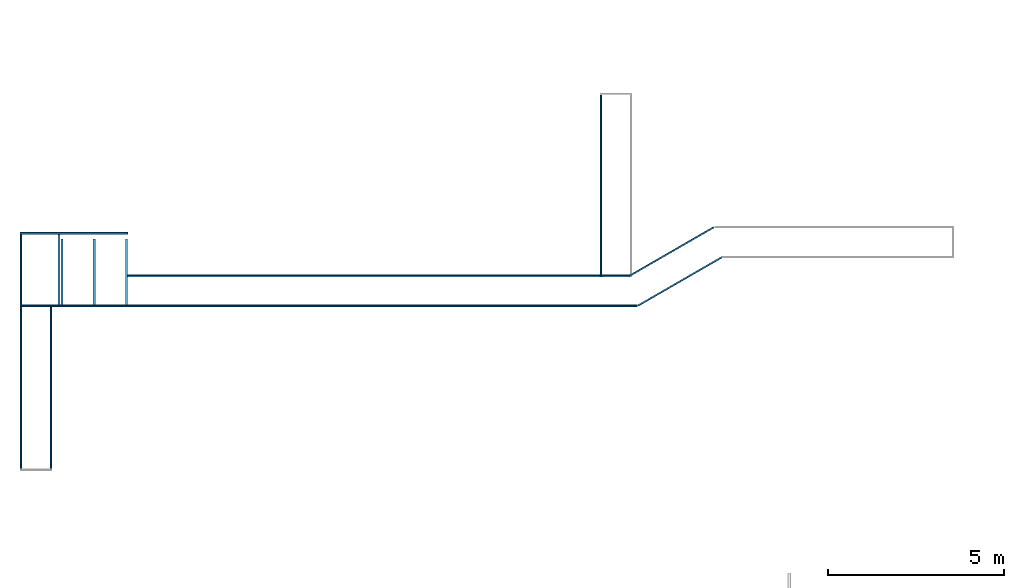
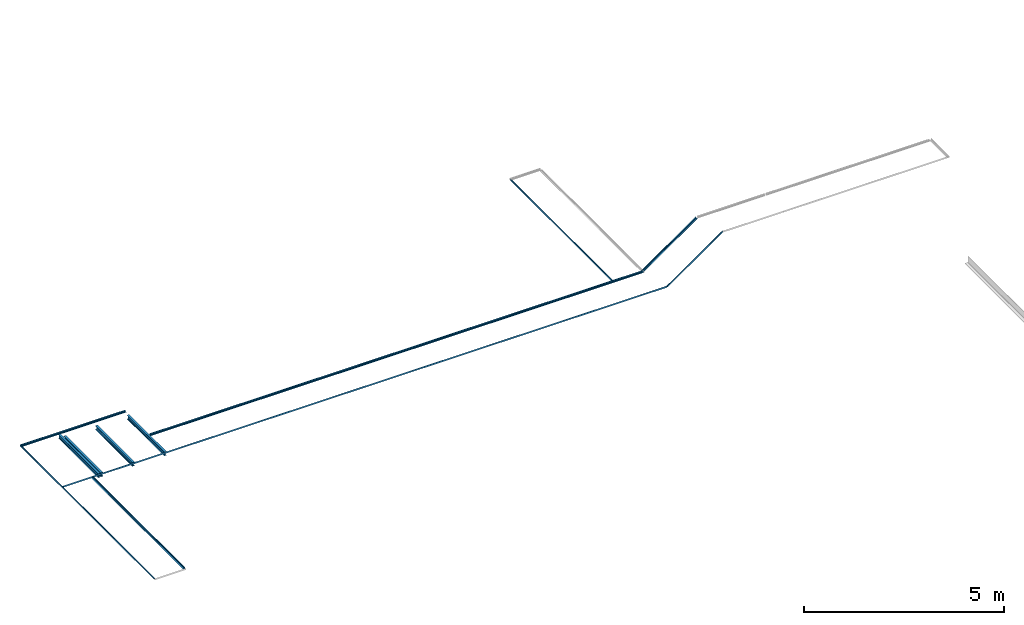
# One storey, part 2 of 3: 12 beams, 1 element without a shape of its own.
"""IFC4X3_ADD2 building model written with IfcOpenShell, lengths in millimetres."""

from ifc_helpers import new_model, si_unit, point, direction, frame, frame_2d, origin_with_axes, place, context, subcontext, project, spatial, polyline, circle_curve, trimmed, segment, composite_curve, i_section, l_section, outline, extrude, boolean, material, type_object, element, aggregate, save


model = new_model("IFC4X3_ADD2")

# Units and contexts
model_context = context("Model", 3, precision=1e-05, world=origin_with_axes(), true_north=direction((0.0, 1.0)))
body_context = subcontext(model_context, "Body", "Model", "MODEL_VIEW")
ifc_project = project(units=[si_unit("LENGTHUNIT", "METRE", prefix="MILLI"), si_unit("AREAUNIT", "SQUARE_METRE"), si_unit("VOLUMEUNIT", "CUBIC_METRE"), si_unit("PLANEANGLEUNIT", "RADIAN"), si_unit("TIMEUNIT", "SECOND"), si_unit("MASSUNIT", "GRAM")], contexts=[model_context])

# Site, building, storey
site_placement = place(None, origin_with_axes())
site = spatial("IfcSite", under=ifc_project, at=site_placement, Name="Site", CompositionType="ELEMENT")
building_placement = place(site_placement, origin_with_axes())
building = spatial("IfcBuilding", under=site, at=building_placement, Name="IFC Building Story")
storey_placement = place(building_placement, frame((0.0, 0.0, -3000.0), z_axis=(0.0, 0.0, 1.0), x_axis=(1.0, 0.0, 0.0)))
storey = spatial("IfcBuildingStorey", under=building, at=storey_placement, Name="ETAGE -1", Elevation=-3000.0)

# Assembly, beams
assembly_placement = place(storey_placement, frame((0.0, 0.0, 3000.0), z_axis=(0.0, 0.0, 1.0), x_axis=(1.0, 0.0, 0.0)))
assembly = element("IfcElementAssembly", 1, at=assembly_placement, inside=storey, Name="Assemblage Ossature:non repris au plan structure métallique", ObjectType="Assemblage Ossature:non repris au plan structure métallique", AssemblyPlace="NOTDEFINED", PredefinedType="USERDEFINED")
ifc_material = material(Name="BS_28_Métal")
beam_type = type_object("IfcBeamType", Name="L50x5", PredefinedType="NOTDEFINED")
beam_1_placement = place(assembly_placement, frame((11376.6894781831, 9350.0, -25.0), z_axis=(0.0, -1.0, 0.0), x_axis=(0.0, 0.0, 1.0)))
beam_1 = element("IfcBeam", 2, at=beam_1_placement, type_object=beam_type, material=ifc_material, Name="BS_28_SF_LE_Cornière à ailes égales:L50x5", ObjectType="L50x5", context=body_context, shape_type="CSG", body=[
    boolean("UNION", boolean("DIFFERENCE", extrude(l_section(Depth=49.99999999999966, Width=50.00000000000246, Thickness=4.999999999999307, FilletRadius=7.0, EdgeRadius=3.49999999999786, LegSlope=0.0, at=frame_2d((0.0, 5.95523630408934e-12), x_axis=(1.0, 0.0))), origin_with_axes(), (0.0, 0.0, 1.0), 6650.0), extrude(outline(composite_curve([segment(trimmed(circle_curve(frame_2d((-22.78571428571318, -0.357142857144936), x_axis=(1.0, 0.0)), 3.499999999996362), [point((-22.78571428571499, -3.857142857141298))], [point((-19.28571428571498, -0.357142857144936))], True, "CARTESIAN"), True, "CONTINUOUS"), segment(polyline([(-19.28571428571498, -0.357142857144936), (-19.28571428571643, 8.142857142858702)]), True, "CONTINUOUS"), segment(trimmed(circle_curve(frame_2d((-12.28571428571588, 8.142857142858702), x_axis=(1.0, 0.0)), 7.0), [point((-19.28571428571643, 8.142857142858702))], [point((-12.28571428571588, 1.142857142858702))], True, "CARTESIAN"), True, "CONTINUOUS"), segment(polyline([(-12.28571428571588, 1.142857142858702), (22.21428571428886, 1.142857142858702)]), True, "CONTINUOUS"), segment(trimmed(circle_curve(frame_2d((22.21428571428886, -2.357142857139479), x_axis=(1.0, 0.0)), 3.499999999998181), [point((22.21428571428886, 1.142857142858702))], [point((25.71428571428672, -2.357142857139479))], False, "CARTESIAN"), True, "CONTINUOUS"), segment(polyline([(25.71428571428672, -2.357142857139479), (25.71428571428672, -3.857142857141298)]), True, "CONTINUOUS"), segment(polyline([(25.71428571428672, -3.857142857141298), (-22.78571428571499, -3.857142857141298)]), True, "CONTINUOUS")], self_intersect=False)), frame((-0.7142857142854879, -21.1428571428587, 0.0), z_axis=(0.0, 0.0, 1.0), x_axis=(1.0, 0.0, 0.0)), (0.0, 0.0, 1.0), 6650.0)), extrude(outline(composite_curve([segment(polyline([(-19.28571428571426, -8.142857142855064), (-19.28571428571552, 0.357142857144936)]), True, "CONTINUOUS"), segment(trimmed(circle_curve(frame_2d((-22.78571428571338, 0.357142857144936), x_axis=(1.0, 0.0)), 3.499999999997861), [point((-19.28571428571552, 0.357142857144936))], [point((-22.78571428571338, 3.857142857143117))], True, "CARTESIAN"), True, "CONTINUOUS"), segment(polyline([(-22.78571428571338, 3.857142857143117), (25.71428571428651, 3.857142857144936)]), True, "CONTINUOUS"), segment(polyline([(25.71428571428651, 3.857142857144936), (25.7142857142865, 2.357142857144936)]), True, "CONTINUOUS"), segment(trimmed(circle_curve(frame_2d((22.2142857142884, 2.357142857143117), x_axis=(1.0, 0.0)), 3.499999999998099), [point((25.7142857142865, 2.357142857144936))], [point((22.21428571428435, -1.142857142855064))], False, "CARTESIAN"), True, "CONTINUOUS"), segment(polyline([(22.21428571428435, -1.142857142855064), (-12.2857142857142, -1.142857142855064)]), True, "CONTINUOUS"), segment(trimmed(circle_curve(frame_2d((-12.28571428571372, -8.142857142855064), x_axis=(1.0, 0.0)), 7.0), [point((-12.2857142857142, -1.142857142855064))], [point((-19.28571428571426, -8.142857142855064))], True, "CARTESIAN"), True, "CONTINUOUS")], self_intersect=False)), frame((-0.7142857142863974, 21.14285714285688, 0.0), z_axis=(0.0, 0.0, 1.0), x_axis=(1.0, 0.0, 0.0)), (0.0, 0.0, 1.0), 6650.0)),
])
beam_2_placement = place(assembly_placement, frame((11351.6894781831, 9375.00000000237, -25.00000000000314), z_axis=(1.0, 0.0, 0.0), x_axis=(0.0, -1.0, 0.0)))
beam_2 = element("IfcBeam", 3, at=beam_2_placement, type_object=beam_type, material=ifc_material, Name="BS_28_SF_LE_Cornière à ailes égales:L50x5", ObjectType="L50x5", context=body_context, shape_type="CSG", body=[
    boolean("UNION", boolean("DIFFERENCE", extrude(l_section(Depth=49.99999999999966, Width=50.00000000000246, Thickness=4.999999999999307, FilletRadius=7.0, EdgeRadius=3.49999999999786, LegSlope=0.0, at=frame_2d((0.0, 5.95523630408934e-12), x_axis=(1.0, 0.0))), origin_with_axes(), (0.0, 0.0, 1.0), 3050.0), extrude(outline(composite_curve([segment(polyline([(-19.28571428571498, -0.357142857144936), (-19.28571428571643, 8.142857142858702)]), True, "CONTINUOUS"), segment(trimmed(circle_curve(frame_2d((-12.28571428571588, 8.142857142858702), x_axis=(1.0, 0.0)), 7.0), [point((-19.28571428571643, 8.142857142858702))], [point((-12.28571428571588, 1.142857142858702))], True, "CARTESIAN"), True, "CONTINUOUS"), segment(polyline([(-12.28571428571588, 1.142857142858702), (22.21428571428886, 1.142857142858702)]), True, "CONTINUOUS"), segment(trimmed(circle_curve(frame_2d((22.21428571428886, -2.357142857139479), x_axis=(1.0, 0.0)), 3.499999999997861), [point((22.21428571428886, 1.142857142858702))], [point((25.71428571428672, -2.357142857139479))], False, "CARTESIAN"), True, "CONTINUOUS"), segment(polyline([(25.71428571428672, -2.357142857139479), (25.71428571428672, -3.857142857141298)]), True, "CONTINUOUS"), segment(polyline([(25.71428571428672, -3.857142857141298), (-22.78571428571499, -3.857142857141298)]), True, "CONTINUOUS"), segment(trimmed(circle_curve(frame_2d((-22.78571428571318, -0.357142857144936), x_axis=(1.0, 0.0)), 3.50000000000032), [point((-22.78571428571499, -3.857142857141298))], [point((-19.28571428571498, -0.357142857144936))], True, "CARTESIAN"), True, "CONTINUOUS")], self_intersect=False)), frame((-0.7142857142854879, -21.1428571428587, 0.0), z_axis=(0.0, 0.0, 1.0), x_axis=(1.0, 0.0, 0.0)), (0.0, 0.0, 1.0), 3050.000000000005)), extrude(outline(composite_curve([segment(polyline([(-19.28571428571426, -8.142857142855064), (-19.28571428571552, 0.357142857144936)]), True, "CONTINUOUS"), segment(trimmed(circle_curve(frame_2d((-22.78571428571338, 0.357142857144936), x_axis=(1.0, 0.0)), 3.499999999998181), [point((-19.28571428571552, 0.357142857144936))], [point((-22.78571428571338, 3.857142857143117))], True, "CARTESIAN"), True, "CONTINUOUS"), segment(polyline([(-22.78571428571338, 3.857142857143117), (25.71428571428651, 3.857142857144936)]), True, "CONTINUOUS"), segment(polyline([(25.71428571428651, 3.857142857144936), (25.7142857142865, 2.357142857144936)]), True, "CONTINUOUS"), segment(trimmed(circle_curve(frame_2d((22.2142857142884, 2.357142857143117), x_axis=(1.0, 0.0)), 3.499999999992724), [point((25.7142857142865, 2.357142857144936))], [point((22.21428571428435, -1.142857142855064))], False, "CARTESIAN"), True, "CONTINUOUS"), segment(polyline([(22.21428571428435, -1.142857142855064), (-12.2857142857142, -1.142857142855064)]), True, "CONTINUOUS"), segment(trimmed(circle_curve(frame_2d((-12.28571428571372, -8.142857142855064), x_axis=(1.0, 0.0)), 6.999999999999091), [point((-12.2857142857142, -1.142857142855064))], [point((-19.28571428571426, -8.142857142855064))], True, "CARTESIAN"), True, "CONTINUOUS")], self_intersect=False)), frame((-0.7142857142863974, 21.14285714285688, 0.0), z_axis=(0.0, 0.0, 1.0), x_axis=(1.0, 0.0, 0.0)), (0.0, 0.0, 1.0), 3050.000000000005)),
])
beam_3_placement = place(assembly_placement, frame((14401.71512251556, 8175.000000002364, -25.00000000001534), z_axis=(1.0, 0.0, 0.0), x_axis=(0.0, -1.0, 0.0)))
beam_3 = element("IfcBeam", 4, at=beam_3_placement, type_object=beam_type, material=ifc_material, Name="BS_28_SF_LE_Cornière à ailes égales:L50x5", ObjectType="L50x5", context=body_context, shape_type="CSG", body=[
    boolean("UNION", boolean("DIFFERENCE", extrude(l_section(Depth=49.99999999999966, Width=50.00000000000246, Thickness=4.999999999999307, FilletRadius=7.0, EdgeRadius=3.49999999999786, LegSlope=0.0, at=frame_2d((0.0, 5.95523630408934e-12), x_axis=(1.0, 0.0))), origin_with_axes(), (0.0, 0.0, 1.0), 14238.7), extrude(outline(composite_curve([segment(polyline([(-19.28571428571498, -0.357142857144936), (-19.28571428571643, 8.142857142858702)]), True, "CONTINUOUS"), segment(trimmed(circle_curve(frame_2d((-12.28571428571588, 8.142857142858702), x_axis=(1.0, 0.0)), 7.0), [point((-19.28571428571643, 8.142857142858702))], [point((-12.28571428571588, 1.142857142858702))], True, "CARTESIAN"), True, "CONTINUOUS"), segment(polyline([(-12.28571428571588, 1.142857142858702), (22.21428571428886, 1.142857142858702)]), True, "CONTINUOUS"), segment(trimmed(circle_curve(frame_2d((22.21428571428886, -2.357142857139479), x_axis=(1.0, 0.0)), 3.499999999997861), [point((22.21428571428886, 1.142857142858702))], [point((25.71428571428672, -2.357142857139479))], False, "CARTESIAN"), True, "CONTINUOUS"), segment(polyline([(25.71428571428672, -2.357142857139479), (25.71428571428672, -3.857142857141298)]), True, "CONTINUOUS"), segment(polyline([(25.71428571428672, -3.857142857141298), (-22.78571428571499, -3.857142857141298)]), True, "CONTINUOUS"), segment(trimmed(circle_curve(frame_2d((-22.78571428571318, -0.357142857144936), x_axis=(1.0, 0.0)), 3.500000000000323), [point((-22.78571428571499, -3.857142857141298))], [point((-19.28571428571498, -0.357142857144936))], True, "CARTESIAN"), True, "CONTINUOUS")], self_intersect=False)), frame((-0.7142857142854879, -21.1428571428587, 0.0), z_axis=(0.0, 0.0, 1.0), x_axis=(1.0, 0.0, 0.0)), (0.0, 0.0, 1.0), 14238.69999999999)), extrude(outline(composite_curve([segment(polyline([(-19.28571428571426, -8.142857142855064), (-19.28571428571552, 0.357142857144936)]), True, "CONTINUOUS"), segment(trimmed(circle_curve(frame_2d((-22.78571428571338, 0.357142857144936), x_axis=(1.0, 0.0)), 3.499999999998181), [point((-19.28571428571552, 0.357142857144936))], [point((-22.78571428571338, 3.857142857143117))], True, "CARTESIAN"), True, "CONTINUOUS"), segment(polyline([(-22.78571428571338, 3.857142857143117), (25.71428571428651, 3.857142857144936)]), True, "CONTINUOUS"), segment(polyline([(25.71428571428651, 3.857142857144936), (25.7142857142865, 2.357142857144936)]), True, "CONTINUOUS"), segment(trimmed(circle_curve(frame_2d((22.2142857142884, 2.357142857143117), x_axis=(1.0, 0.0)), 3.499999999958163), [point((25.7142857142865, 2.357142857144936))], [point((22.21428571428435, -1.142857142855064))], False, "CARTESIAN"), True, "CONTINUOUS"), segment(polyline([(22.21428571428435, -1.142857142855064), (-12.2857142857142, -1.142857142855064)]), True, "CONTINUOUS"), segment(trimmed(circle_curve(frame_2d((-12.28571428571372, -8.142857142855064), x_axis=(1.0, 0.0)), 6.999999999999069), [point((-12.2857142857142, -1.142857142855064))], [point((-19.28571428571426, -8.142857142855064))], True, "CARTESIAN"), True, "CONTINUOUS")], self_intersect=False)), frame((-0.7142857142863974, 21.14285714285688, 0.0), z_axis=(0.0, 0.0, 1.0), x_axis=(1.0, 0.0, 0.0)), (0.0, 0.0, 1.0), 14238.69999999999)),
])
beam_4_placement = place(assembly_placement, frame((27811.6894781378, 13300.0, -25.0), z_axis=(0.0, -1.0, 0.0), x_axis=(0.0, 0.0, 1.0)))
beam_4 = element("IfcBeam", 5, at=beam_4_placement, type_object=beam_type, material=ifc_material, Name="BS_28_SF_LE_Cornière à ailes égales:L50x5", ObjectType="L50x5", context=body_context, shape_type="CSG", body=[
    boolean("UNION", boolean("DIFFERENCE", extrude(l_section(Depth=49.99999999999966, Width=50.00000000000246, Thickness=4.999999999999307, FilletRadius=7.0, EdgeRadius=3.49999999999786, LegSlope=0.0, at=frame_2d((0.0, 5.95523630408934e-12), x_axis=(1.0, 0.0))), origin_with_axes(), (0.0, 0.0, 1.0), 5150.0), extrude(outline(composite_curve([segment(trimmed(circle_curve(frame_2d((-22.78571428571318, -0.357142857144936), x_axis=(1.0, 0.0)), 3.5), [point((-22.78571428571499, -3.857142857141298))], [point((-19.28571428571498, -0.357142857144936))], True, "CARTESIAN"), True, "CONTINUOUS"), segment(polyline([(-19.28571428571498, -0.357142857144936), (-19.28571428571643, 8.142857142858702)]), True, "CONTINUOUS"), segment(trimmed(circle_curve(frame_2d((-12.28571428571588, 8.142857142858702), x_axis=(1.0, 0.0)), 7.0), [point((-19.28571428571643, 8.142857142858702))], [point((-12.28571428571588, 1.142857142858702))], True, "CARTESIAN"), True, "CONTINUOUS"), segment(polyline([(-12.28571428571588, 1.142857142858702), (22.21428571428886, 1.142857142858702)]), True, "CONTINUOUS"), segment(trimmed(circle_curve(frame_2d((22.21428571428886, -2.357142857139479), x_axis=(1.0, 0.0)), 3.5), [point((22.21428571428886, 1.142857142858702))], [point((25.71428571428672, -2.357142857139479))], False, "CARTESIAN"), True, "CONTINUOUS"), segment(polyline([(25.71428571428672, -2.357142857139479), (25.71428571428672, -3.857142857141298)]), True, "CONTINUOUS"), segment(polyline([(25.71428571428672, -3.857142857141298), (-22.78571428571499, -3.857142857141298)]), True, "CONTINUOUS")], self_intersect=False)), frame((-0.7142857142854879, -21.1428571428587, 0.0), z_axis=(0.0, 0.0, 1.0), x_axis=(1.0, 0.0, 0.0)), (0.0, 0.0, 1.0), 5150.0)), extrude(outline(composite_curve([segment(polyline([(-19.28571428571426, -8.142857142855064), (-19.28571428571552, 0.357142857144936)]), True, "CONTINUOUS"), segment(trimmed(circle_curve(frame_2d((-22.78571428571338, 0.357142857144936), x_axis=(1.0, 0.0)), 3.499999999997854), [point((-19.28571428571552, 0.357142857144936))], [point((-22.78571428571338, 3.857142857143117))], True, "CARTESIAN"), True, "CONTINUOUS"), segment(polyline([(-22.78571428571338, 3.857142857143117), (25.71428571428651, 3.857142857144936)]), True, "CONTINUOUS"), segment(polyline([(25.71428571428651, 3.857142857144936), (25.7142857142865, 2.357142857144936)]), True, "CONTINUOUS"), segment(trimmed(circle_curve(frame_2d((22.2142857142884, 2.357142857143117), x_axis=(1.0, 0.0)), 3.500000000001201), [point((25.7142857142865, 2.357142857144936))], [point((22.21428571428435, -1.142857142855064))], False, "CARTESIAN"), True, "CONTINUOUS"), segment(polyline([(22.21428571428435, -1.142857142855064), (-12.2857142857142, -1.142857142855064)]), True, "CONTINUOUS"), segment(trimmed(circle_curve(frame_2d((-12.28571428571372, -8.142857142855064), x_axis=(1.0, 0.0)), 7.0), [point((-12.2857142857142, -1.142857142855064))], [point((-19.28571428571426, -8.142857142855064))], True, "CARTESIAN"), True, "CONTINUOUS")], self_intersect=False)), frame((-0.7142857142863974, 21.14285714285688, 0.0), z_axis=(0.0, 0.0, 1.0), x_axis=(1.0, 0.0, 0.0)), (0.0, 0.0, 1.0), 5150.0)),
])
beam_5_placement = place(assembly_placement, frame((31011.17088129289, 9549.774990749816, -25.0), z_axis=(-0.8660254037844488, -0.4999999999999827, 0.0), x_axis=(0.0, 0.0, 1.0)))
beam_5 = element("IfcBeam", 6, at=beam_5_placement, type_object=beam_type, material=ifc_material, Name="BS_28_SF_LE_Cornière à ailes égales:L50x5", ObjectType="L50x5", context=body_context, shape_type="CSG", body=[
    boolean("UNION", boolean("DIFFERENCE", extrude(l_section(Depth=49.99999999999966, Width=50.00000000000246, Thickness=4.999999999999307, FilletRadius=7.0, EdgeRadius=3.49999999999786, LegSlope=0.0, at=frame_2d((0.0, 5.95523630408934e-12), x_axis=(1.0, 0.0))), origin_with_axes(), (0.0, 0.0, 1.0), 2760.000000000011), extrude(outline(composite_curve([segment(trimmed(circle_curve(frame_2d((-22.78571428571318, -0.357142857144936), x_axis=(1.0, 0.0)), 3.499999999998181), [point((-22.78571428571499, -3.857142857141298))], [point((-19.28571428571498, -0.357142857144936))], True, "CARTESIAN"), True, "CONTINUOUS"), segment(polyline([(-19.28571428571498, -0.357142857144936), (-19.28571428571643, 8.142857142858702)]), True, "CONTINUOUS"), segment(trimmed(circle_curve(frame_2d((-12.28571428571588, 8.142857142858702), x_axis=(1.0, 0.0)), 7.0), [point((-19.28571428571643, 8.142857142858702))], [point((-12.28571428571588, 1.142857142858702))], True, "CARTESIAN"), True, "CONTINUOUS"), segment(polyline([(-12.28571428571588, 1.142857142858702), (22.21428571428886, 1.142857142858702)]), True, "CONTINUOUS"), segment(trimmed(circle_curve(frame_2d((22.21428571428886, -2.357142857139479), x_axis=(1.0, 0.0)), 3.499999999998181), [point((22.21428571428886, 1.142857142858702))], [point((25.71428571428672, -2.357142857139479))], False, "CARTESIAN"), True, "CONTINUOUS"), segment(polyline([(25.71428571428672, -2.357142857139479), (25.71428571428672, -3.857142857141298)]), True, "CONTINUOUS"), segment(polyline([(25.71428571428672, -3.857142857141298), (-22.78571428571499, -3.857142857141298)]), True, "CONTINUOUS")], self_intersect=False)), frame((-0.7142857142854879, -21.1428571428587, 0.0), z_axis=(0.0, 0.0, 1.0), x_axis=(1.0, 0.0, 0.0)), (0.0, 0.0, 1.0), 2760.000000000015)), extrude(outline(composite_curve([segment(polyline([(-19.28571428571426, -8.142857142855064), (-19.28571428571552, 0.357142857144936)]), True, "CONTINUOUS"), segment(trimmed(circle_curve(frame_2d((-22.78571428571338, 0.357142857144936), x_axis=(1.0, 0.0)), 3.499999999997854), [point((-19.28571428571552, 0.357142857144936))], [point((-22.78571428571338, 3.857142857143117))], True, "CARTESIAN"), True, "CONTINUOUS"), segment(polyline([(-22.78571428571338, 3.857142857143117), (25.71428571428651, 3.857142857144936)]), True, "CONTINUOUS"), segment(polyline([(25.71428571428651, 3.857142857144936), (25.7142857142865, 2.357142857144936)]), True, "CONTINUOUS"), segment(trimmed(circle_curve(frame_2d((22.2142857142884, 2.357142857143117), x_axis=(1.0, 0.0)), 3.499999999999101), [point((25.7142857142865, 2.357142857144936))], [point((22.21428571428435, -1.142857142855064))], False, "CARTESIAN"), True, "CONTINUOUS"), segment(polyline([(22.21428571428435, -1.142857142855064), (-12.2857142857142, -1.142857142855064)]), True, "CONTINUOUS"), segment(trimmed(circle_curve(frame_2d((-12.28571428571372, -8.142857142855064), x_axis=(1.0, 0.0)), 6.999999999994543), [point((-12.2857142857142, -1.142857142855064))], [point((-19.28571428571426, -8.142857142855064))], True, "CARTESIAN"), True, "CONTINUOUS")], self_intersect=False)), frame((-0.7142857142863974, 21.14285714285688, 0.0), z_axis=(0.0, 0.0, 1.0), x_axis=(1.0, 0.0, 0.0)), (0.0, 0.0, 1.0), 2760.000000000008)),
])
beam_6_placement = place(assembly_placement, frame((31253.40371225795, 8708.13272330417, -25.0), z_axis=(-0.8660254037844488, -0.4999999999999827, 0.0), x_axis=(-0.4999999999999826, 0.8660254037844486, 0.0)))
beam_6 = element("IfcBeam", 7, at=beam_6_placement, type_object=beam_type, material=ifc_material, Name="BS_28_SF_LE_Cornière à ailes égales:L50x5", ObjectType="L50x5", context=body_context, shape_type="CSG", body=[
    boolean("UNION", boolean("DIFFERENCE", extrude(l_section(Depth=49.99999999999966, Width=50.00000000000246, Thickness=4.999999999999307, FilletRadius=7.0, EdgeRadius=3.49999999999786, LegSlope=0.0, at=frame_2d((0.0, 5.95523630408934e-12), x_axis=(1.0, 0.0))), origin_with_axes(), (0.0, 0.0, 1.0), 2760.700000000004), extrude(outline(composite_curve([segment(polyline([(-19.28571428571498, -0.357142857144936), (-19.28571428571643, 8.142857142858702)]), True, "CONTINUOUS"), segment(trimmed(circle_curve(frame_2d((-12.28571428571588, 8.142857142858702), x_axis=(1.0, 0.0)), 7.000000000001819), [point((-19.28571428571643, 8.142857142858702))], [point((-12.28571428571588, 1.142857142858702))], True, "CARTESIAN"), True, "CONTINUOUS"), segment(polyline([(-12.28571428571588, 1.142857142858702), (22.21428571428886, 1.142857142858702)]), True, "CONTINUOUS"), segment(trimmed(circle_curve(frame_2d((22.21428571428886, -2.357142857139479), x_axis=(1.0, 0.0)), 3.499999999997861), [point((22.21428571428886, 1.142857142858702))], [point((25.71428571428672, -2.357142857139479))], False, "CARTESIAN"), True, "CONTINUOUS"), segment(polyline([(25.71428571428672, -2.357142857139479), (25.71428571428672, -3.857142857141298)]), True, "CONTINUOUS"), segment(polyline([(25.71428571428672, -3.857142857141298), (-22.78571428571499, -3.857142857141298)]), True, "CONTINUOUS"), segment(trimmed(circle_curve(frame_2d((-22.78571428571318, -0.357142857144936), x_axis=(1.0, 0.0)), 3.499999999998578), [point((-22.78571428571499, -3.857142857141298))], [point((-19.28571428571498, -0.357142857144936))], True, "CARTESIAN"), True, "CONTINUOUS")], self_intersect=False)), frame((-0.7142857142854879, -21.1428571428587, 0.0), z_axis=(0.0, 0.0, 1.0), x_axis=(1.0, 0.0, 0.0)), (0.0, 0.0, 1.0), 2760.7)), extrude(outline(composite_curve([segment(polyline([(-19.28571428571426, -8.142857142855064), (-19.28571428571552, 0.357142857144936)]), True, "CONTINUOUS"), segment(trimmed(circle_curve(frame_2d((-22.78571428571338, 0.357142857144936), x_axis=(1.0, 0.0)), 3.5), [point((-19.28571428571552, 0.357142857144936))], [point((-22.78571428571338, 3.857142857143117))], True, "CARTESIAN"), True, "CONTINUOUS"), segment(polyline([(-22.78571428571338, 3.857142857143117), (25.71428571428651, 3.857142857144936)]), True, "CONTINUOUS"), segment(polyline([(25.71428571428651, 3.857142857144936), (25.7142857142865, 2.357142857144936)]), True, "CONTINUOUS"), segment(trimmed(circle_curve(frame_2d((22.2142857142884, 2.357142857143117), x_axis=(1.0, 0.0)), 3.499999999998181), [point((25.7142857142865, 2.357142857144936))], [point((22.21428571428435, -1.142857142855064))], False, "CARTESIAN"), True, "CONTINUOUS"), segment(polyline([(22.21428571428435, -1.142857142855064), (-12.2857142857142, -1.142857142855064)]), True, "CONTINUOUS"), segment(trimmed(circle_curve(frame_2d((-12.28571428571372, -8.142857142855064), x_axis=(1.0, 0.0)), 6.999999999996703), [point((-12.2857142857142, -1.142857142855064))], [point((-19.28571428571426, -8.142857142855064))], True, "CARTESIAN"), True, "CONTINUOUS")], self_intersect=False)), frame((-0.7142857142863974, 21.14285714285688, 0.0), z_axis=(0.0, 0.0, 1.0), x_axis=(1.0, 0.0, 0.0)), (0.0, 0.0, 1.0), 2760.699999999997)),
])
beam_7_placement = place(assembly_placement, frame((11401.69351078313, 7325.000000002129, -24.99999999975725), z_axis=(1.0, 0.0, 0.0), x_axis=(0.0, 0.0, 1.0)))
beam_7 = element("IfcBeam", 8, at=beam_7_placement, type_object=beam_type, material=ifc_material, Name="BS_28_SF_LE_Cornière à ailes égales:L50x5", ObjectType="L50x5", context=body_context, shape_type="CSG", body=[
    boolean("UNION", boolean("DIFFERENCE", extrude(l_section(Depth=49.99999999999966, Width=50.00000000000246, Thickness=4.999999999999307, FilletRadius=7.0, EdgeRadius=3.49999999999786, LegSlope=0.0, at=frame_2d((0.0, 5.95523630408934e-12), x_axis=(1.0, 0.0))), origin_with_axes(), (0.0, 0.0, 1.0), 17445.6), extrude(outline(composite_curve([segment(trimmed(circle_curve(frame_2d((-22.78571428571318, -0.357142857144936), x_axis=(1.0, 0.0)), 3.500000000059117), [point((-22.78571428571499, -3.857142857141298))], [point((-19.28571428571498, -0.357142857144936))], True, "CARTESIAN"), True, "CONTINUOUS"), segment(polyline([(-19.28571428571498, -0.357142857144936), (-19.28571428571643, 8.142857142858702)]), True, "CONTINUOUS"), segment(trimmed(circle_curve(frame_2d((-12.28571428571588, 8.142857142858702), x_axis=(1.0, 0.0)), 7.0), [point((-19.28571428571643, 8.142857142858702))], [point((-12.28571428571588, 1.142857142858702))], True, "CARTESIAN"), True, "CONTINUOUS"), segment(polyline([(-12.28571428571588, 1.142857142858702), (22.21428571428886, 1.142857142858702)]), True, "CONTINUOUS"), segment(trimmed(circle_curve(frame_2d((22.21428571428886, -2.357142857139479), x_axis=(1.0, 0.0)), 3.499999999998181), [point((22.21428571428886, 1.142857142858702))], [point((25.71428571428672, -2.357142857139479))], False, "CARTESIAN"), True, "CONTINUOUS"), segment(polyline([(25.71428571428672, -2.357142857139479), (25.71428571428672, -3.857142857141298)]), True, "CONTINUOUS"), segment(polyline([(25.71428571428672, -3.857142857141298), (-22.78571428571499, -3.857142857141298)]), True, "CONTINUOUS")], self_intersect=False)), frame((-0.7142857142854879, -21.1428571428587, 0.0), z_axis=(0.0, 0.0, 1.0), x_axis=(1.0, 0.0, 0.0)), (0.0, 0.0, 1.0), 17445.6)), extrude(outline(composite_curve([segment(polyline([(-19.28571428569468, -8.142857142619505), (-19.28571428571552, 0.357142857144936)]), True, "CONTINUOUS"), segment(trimmed(circle_curve(frame_2d((-22.78571428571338, 0.357142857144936), x_axis=(1.0, 0.0)), 3.499999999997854), [point((-19.28571428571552, 0.357142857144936))], [point((-22.78571428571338, 3.857142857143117))], True, "CARTESIAN"), True, "CONTINUOUS"), segment(polyline([(-22.78571428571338, 3.857142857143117), (25.71428571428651, 3.857142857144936)]), True, "CONTINUOUS"), segment(polyline([(25.71428571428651, 3.857142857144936), (25.7142857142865, 2.357142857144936)]), True, "CONTINUOUS"), segment(trimmed(circle_curve(frame_2d((22.2142857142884, 2.357142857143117), x_axis=(1.0, 0.0)), 3.500000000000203), [point((25.7142857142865, 2.357142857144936))], [point((22.21428571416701, -1.14285714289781))], False, "CARTESIAN"), True, "CONTINUOUS"), segment(polyline([(22.21428571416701, -1.14285714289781), (-12.2857142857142, -1.142857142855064)]), True, "CONTINUOUS"), segment(trimmed(circle_curve(frame_2d((-12.28571428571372, -8.142857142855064), x_axis=(1.0, 0.0)), 7.000000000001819), [point((-12.2857142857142, -1.142857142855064))], [point((-19.28571428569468, -8.142857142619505))], True, "CARTESIAN"), True, "CONTINUOUS")], self_intersect=False)), frame((-0.7142857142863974, 21.14285714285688, 0.0), z_axis=(0.0, 0.0, 1.0), x_axis=(1.0, 0.0, 0.0)), (0.0, 0.0, 1.0), 17445.6)),
])
beam_8_placement = place(assembly_placement, frame((12226.689478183, 7300.0, -25.0), z_axis=(0.0, -1.0, 0.0), x_axis=(-1.0, 0.0, 0.0)))
beam_8 = element("IfcBeam", 9, at=beam_8_placement, type_object=beam_type, material=ifc_material, Name="BS_28_SF_LE_Cornière à ailes égales:L50x5", ObjectType="L50x5", context=body_context, shape_type="CSG", body=[
    boolean("UNION", boolean("DIFFERENCE", extrude(l_section(Depth=49.99999999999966, Width=50.00000000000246, Thickness=4.999999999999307, FilletRadius=7.0, EdgeRadius=3.49999999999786, LegSlope=0.0, at=frame_2d((0.0, 5.95523630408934e-12), x_axis=(1.0, 0.0))), origin_with_axes(), (0.0, 0.0, 1.0), 4600.0), extrude(outline(composite_curve([segment(polyline([(-19.28571428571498, -0.357142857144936), (-19.28571428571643, 8.142857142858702)]), True, "CONTINUOUS"), segment(trimmed(circle_curve(frame_2d((-12.28571428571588, 8.142857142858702), x_axis=(1.0, 0.0)), 7.0), [point((-19.28571428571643, 8.142857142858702))], [point((-12.28571428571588, 1.142857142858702))], True, "CARTESIAN"), True, "CONTINUOUS"), segment(polyline([(-12.28571428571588, 1.142857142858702), (22.21428571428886, 1.142857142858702)]), True, "CONTINUOUS"), segment(trimmed(circle_curve(frame_2d((22.21428571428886, -2.357142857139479), x_axis=(1.0, 0.0)), 3.499999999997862), [point((22.21428571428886, 1.142857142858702))], [point((25.71428571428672, -2.357142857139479))], False, "CARTESIAN"), True, "CONTINUOUS"), segment(polyline([(25.71428571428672, -2.357142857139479), (25.71428571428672, -3.857142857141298)]), True, "CONTINUOUS"), segment(polyline([(25.71428571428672, -3.857142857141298), (-22.78571428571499, -3.857142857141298)]), True, "CONTINUOUS"), segment(trimmed(circle_curve(frame_2d((-22.78571428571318, -0.357142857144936), x_axis=(1.0, 0.0)), 3.499999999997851), [point((-22.78571428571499, -3.857142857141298))], [point((-19.28571428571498, -0.357142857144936))], True, "CARTESIAN"), True, "CONTINUOUS")], self_intersect=False)), frame((-0.7142857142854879, -21.1428571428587, 0.0), z_axis=(0.0, 0.0, 1.0), x_axis=(1.0, 0.0, 0.0)), (0.0, 0.0, 1.0), 4600.0)), extrude(outline(composite_curve([segment(polyline([(-19.28571428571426, -8.142857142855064), (-19.28571428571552, 0.357142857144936)]), True, "CONTINUOUS"), segment(trimmed(circle_curve(frame_2d((-22.78571428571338, 0.357142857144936), x_axis=(1.0, 0.0)), 3.499999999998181), [point((-19.28571428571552, 0.357142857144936))], [point((-22.78571428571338, 3.857142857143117))], True, "CARTESIAN"), True, "CONTINUOUS"), segment(polyline([(-22.78571428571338, 3.857142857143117), (25.71428571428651, 3.857142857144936)]), True, "CONTINUOUS"), segment(polyline([(25.71428571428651, 3.857142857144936), (25.7142857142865, 2.357142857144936)]), True, "CONTINUOUS"), segment(trimmed(circle_curve(frame_2d((22.2142857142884, 2.357142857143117), x_axis=(1.0, 0.0)), 3.499999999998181), [point((25.7142857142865, 2.357142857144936))], [point((22.21428571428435, -1.142857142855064))], False, "CARTESIAN"), True, "CONTINUOUS"), segment(polyline([(22.21428571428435, -1.142857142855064), (-12.2857142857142, -1.142857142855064)]), True, "CONTINUOUS"), segment(trimmed(circle_curve(frame_2d((-12.28571428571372, -8.142857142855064), x_axis=(1.0, 0.0)), 7.0), [point((-12.2857142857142, -1.142857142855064))], [point((-19.28571428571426, -8.142857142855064))], True, "CARTESIAN"), True, "CONTINUOUS")], self_intersect=False)), frame((-0.7142857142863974, 21.14285714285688, 0.0), z_axis=(0.0, 0.0, 1.0), x_axis=(1.0, 0.0, 0.0)), (0.0, 0.0, 1.0), 4600.0)),
])
beam_9_placement = place(assembly_placement, frame((14369.6894781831, 7350.0, -90.0), z_axis=(0.0, 1.0, 0.0), x_axis=(-1.0, 0.0, 0.0)))
beam_9 = element("IfcBeam", 10, at=beam_9_placement, material=ifc_material, Name="BS_28_SF_LE_IPE:IPE120", ObjectType="IPE120", context=body_context, shape_type="SweptSolid", body=[
    extrude(i_section(OverallWidth=63.99999999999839, OverallDepth=120.0, WebThickness=4.40000000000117, FlangeThickness=6.3000000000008, FilletRadius=7.0, at=frame_2d((0.0, 5.95523630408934e-12), x_axis=(1.0, 0.0))), origin_with_axes(), (0.0, 0.0, 1.0), 1862.29999999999),
])
beam_10_placement = place(assembly_placement, frame((12459.6894781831, 7350.0, -90.0), z_axis=(0.0, 1.0, 0.0), x_axis=(-1.0, 0.0, 0.0)))
beam_10 = element("IfcBeam", 11, at=beam_10_placement, material=ifc_material, Name="BS_28_SF_LE_IPE:IPE120", ObjectType="IPE120", context=body_context, shape_type="SweptSolid", body=[
    extrude(i_section(OverallWidth=63.99999999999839, OverallDepth=120.0, WebThickness=4.40000000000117, FlangeThickness=6.3000000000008, FilletRadius=7.0, at=frame_2d((0.0, 5.95523630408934e-12), x_axis=(1.0, 0.0))), origin_with_axes(), (0.0, 0.0, 1.0), 1999.999999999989),
])
beam_11_placement = place(assembly_placement, frame((12539.6894781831, 7350.0, -90.0), z_axis=(0.0, 1.0, 0.0), x_axis=(-1.0, 0.0, 0.0)))
beam_11 = element("IfcBeam", 12, at=beam_11_placement, material=ifc_material, Name="BS_28_SF_LE_IPE:IPE120", ObjectType="IPE120", context=body_context, shape_type="SweptSolid", body=[
    extrude(i_section(OverallWidth=63.99999999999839, OverallDepth=120.0, WebThickness=4.40000000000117, FlangeThickness=6.3000000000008, FilletRadius=7.0, at=frame_2d((0.0, 5.95523630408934e-12), x_axis=(1.0, 0.0))), origin_with_axes(), (0.0, 0.0, 1.0), 1862.29999999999),
])
beam_12_placement = place(assembly_placement, frame((13452.6894781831, 7350.0, -90.0), z_axis=(0.0, 1.0, 0.0), x_axis=(-1.0, 0.0, 0.0)))
beam_12 = element("IfcBeam", 13, at=beam_12_placement, material=ifc_material, Name="BS_28_SF_LE_IPE:IPE120", ObjectType="IPE120", context=body_context, shape_type="SweptSolid", body=[
    extrude(i_section(OverallWidth=63.99999999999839, OverallDepth=120.0, WebThickness=4.40000000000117, FlangeThickness=6.3000000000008, FilletRadius=7.0, at=frame_2d((0.0, 5.95523630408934e-12), x_axis=(1.0, 0.0))), origin_with_axes(), (0.0, 0.0, 1.0), 1862.29999999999),
])
aggregate(assembly, [beam_1, beam_2, beam_3, beam_4, beam_5, beam_6, beam_7, beam_8, beam_9, beam_10, beam_11, beam_12])

save(model, "model.ifc")
